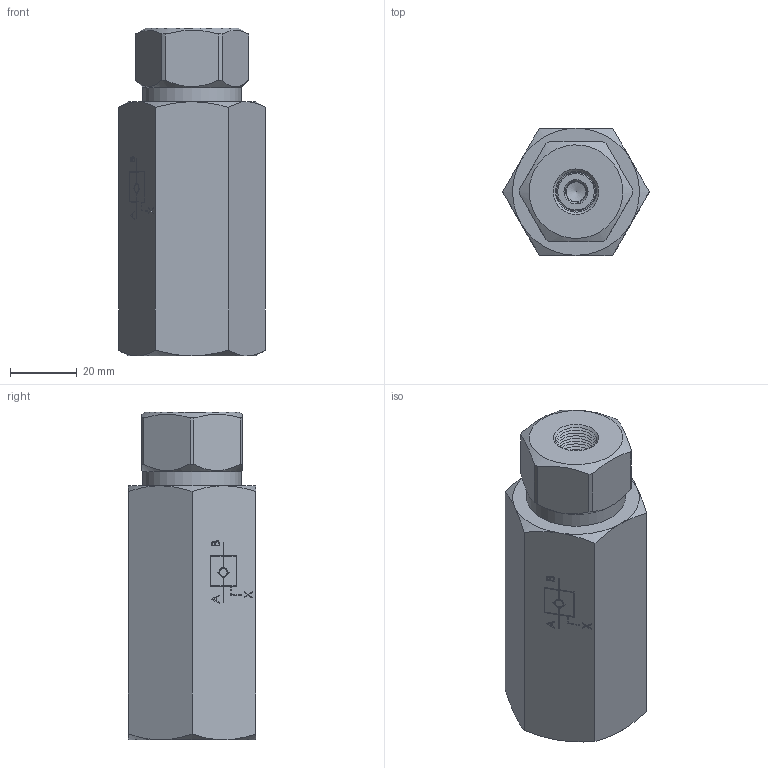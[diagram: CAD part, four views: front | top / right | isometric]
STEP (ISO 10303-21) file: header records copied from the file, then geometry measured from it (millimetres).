
FILE_DESCRIPTION (( 'STEP AP214' ), '1' );
FILE_NAME ('2257-7-14.STEP', '2025-01-23T10:09:59', ( '' ), ( '' ), 'SwSTEP 2.0', 'SolidWorks 2024', '' );
FILE_SCHEMA (( 'AUTOMOTIVE_DESIGN' ));
Length unit declared in the file: millimetre
Products named in the file (9): FONDELLO FILETTATO 2257-5.010.00.0-14; OR 2075_OR2075; PISTONE PILOTAGGIO 2257-7.019.00.0-14; ASSIEME 2257-7.041.00.0-14; CORPO VALVOLA 2257-7.001.00.0-14; 2257-7-14; VALVOLA TENUTA METALLICA 2257-5.008.00.0-14; CONNESSIONE UNIDIREZIONALE 2257-7.033.00.0-14; MOLLA 2 BAR  257-6.009.00-0-14_COMPRESSA
Assembly tree (8 placements, depth 3):
  2257-7-14
    CORPO VALVOLA 2257-7.001.00.0-14
    ASSIEME 2257-7.041.00.0-14
      CONNESSIONE UNIDIREZIONALE 2257-7.033.00.0-14
      FONDELLO FILETTATO 2257-5.010.00.0-14
      VALVOLA TENUTA METALLICA 2257-5.008.00.0-14
      MOLLA 2 BAR  257-6.009.00-0-14_COMPRESSA
    PISTONE PILOTAGGIO 2257-7.019.00.0-14
    OR 2075_OR2075
Bounding box: 43.88 x 38 x 98 mm (x, y, z)
Volume: 100134.5 mm3; surface area: 31654.3 mm2
Topology: 7 solids, 7 shells, 640 faces, 1515 edges, 943 vertices
Faces by surface type: plane 289, cone 218, cylinder 75, bspline 55, torus 3
Full cylindrical faces by diameter (mm): 2.5 x6, 2.52 x1, 3.2 x1, 3.25 x4, 6 x1, 6.5 x2, 8.25 x1, 9 x1, 9.3 x3, 9.5 x1, 10 x5, 10.6 x4, 11 x6, 11.6 x1, 12.5 x1, 14 x1, 14.717 x1, 17.2 x3, 18 x5, 19 x2, 19.4 x1, 20.5 x2, 29.5 x1
Entity records: 21852 total; most frequent: CARTESIAN_POINT 8370, DIRECTION 2573, ORIENTED_EDGE 2438, EDGE_CURVE 1219, EDGE_LOOP 983, AXIS2_PLACEMENT_3D 953, VERTEX_POINT 906, FACE_OUTER_BOUND 699
